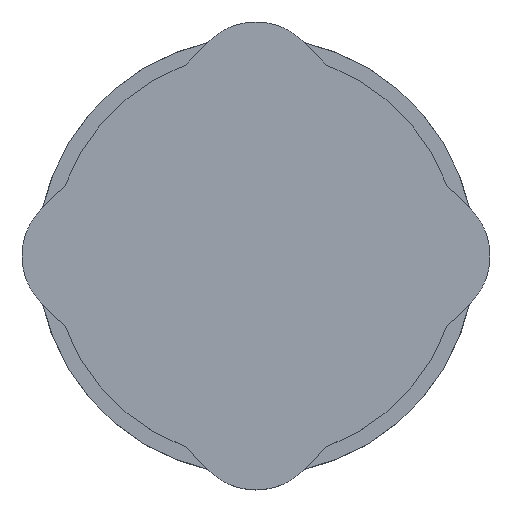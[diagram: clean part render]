
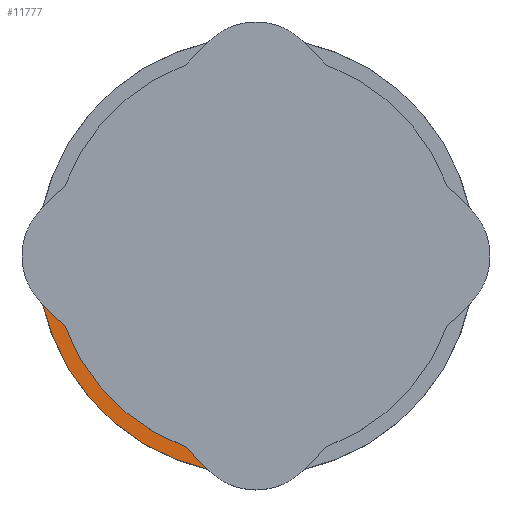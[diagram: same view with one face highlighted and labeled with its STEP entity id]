
A CAD part, top view. The second image highlights one B-rep face of the part: STEP entity #11777.
In plain terms, the highlighted planar face has unit normal (0, 0, 1).
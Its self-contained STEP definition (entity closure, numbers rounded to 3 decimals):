
#32 = CYLINDRICAL_SURFACE('',#33,28.8);
#33 = AXIS2_PLACEMENT_3D('',#34,#35,#36);
#34 = CARTESIAN_POINT('',(0.,0.,6.1));
#35 = DIRECTION('',(-0.,-0.,-1.));
#36 = DIRECTION('',(1.,0.,0.));
#329 = VERTEX_POINT('',#330);
#330 = CARTESIAN_POINT('',(-28.09,-6.355,15.3));
#343 = PLANE('',#344);
#344 = AXIS2_PLACEMENT_3D('',#345,#346,#347);
#345 = CARTESIAN_POINT('',(-6.223,-28.223,8.6));
#346 = DIRECTION('',(-0.707,-0.707,0.));
#347 = DIRECTION('',(-0.707,0.707,0.));
#354 = EDGE_CURVE('',#329,#355,#357,.T.);
#355 = VERTEX_POINT('',#356);
#356 = CARTESIAN_POINT('',(-6.355,-28.09,15.3));
#357 = SURFACE_CURVE('',#358,(#363,#370),.PCURVE_S1.);
#358 = CIRCLE('',#359,28.8);
#359 = AXIS2_PLACEMENT_3D('',#360,#361,#362);
#360 = CARTESIAN_POINT('',(0.,0.,15.3));
#361 = DIRECTION('',(0.,0.,1.));
#362 = DIRECTION('',(1.,0.,0.));
#363 = PCURVE('',#32,#364);
#364 = DEFINITIONAL_REPRESENTATION('',(#365),#369);
#365 = LINE('',#366,#367);
#366 = CARTESIAN_POINT('',(-0.,-9.2));
#367 = VECTOR('',#368,1.);
#368 = DIRECTION('',(-1.,0.));
#369 = ( GEOMETRIC_REPRESENTATION_CONTEXT(2) 
PARAMETRIC_REPRESENTATION_CONTEXT() REPRESENTATION_CONTEXT('2D SPACE',''
  ) );
#370 = PCURVE('',#371,#376);
#371 = PLANE('',#372);
#372 = AXIS2_PLACEMENT_3D('',#373,#374,#375);
#373 = CARTESIAN_POINT('',(0.,0.,15.3)
  );
#374 = DIRECTION('',(0.,0.,1.));
#375 = DIRECTION('',(1.,0.,-0.));
#376 = DEFINITIONAL_REPRESENTATION('',(#377),#381);
#377 = CIRCLE('',#378,28.8);
#378 = AXIS2_PLACEMENT_2D('',#379,#380);
#379 = CARTESIAN_POINT('',(0.,0.));
#380 = DIRECTION('',(1.,0.));
#381 = ( GEOMETRIC_REPRESENTATION_CONTEXT(2) 
PARAMETRIC_REPRESENTATION_CONTEXT() REPRESENTATION_CONTEXT('2D SPACE',''
  ) );
#398 = PLANE('',#399);
#399 = AXIS2_PLACEMENT_3D('',#400,#401,#402);
#400 = CARTESIAN_POINT('',(-6.223,-28.223,8.6));
#401 = DIRECTION('',(-0.707,-0.707,0.));
#402 = DIRECTION('',(-0.707,0.707,0.));
#2093 = CYLINDRICAL_SURFACE('',#2094,26.8);
#2094 = AXIS2_PLACEMENT_3D('',#2095,#2096,#2097);
#2095 = CARTESIAN_POINT('',(0.,0.,15.3));
#2096 = DIRECTION('',(-0.,-0.,-1.));
#2097 = DIRECTION('',(1.,0.,0.));
#9654 = VERTEX_POINT('',#9655);
#9655 = CARTESIAN_POINT('',(-9.317,-25.128,15.3));
#9674 = EDGE_CURVE('',#9675,#9654,#9677,.T.);
#9675 = VERTEX_POINT('',#9676);
#9676 = CARTESIAN_POINT('',(-25.128,-9.317,15.3));
#9677 = SURFACE_CURVE('',#9678,(#9683,#9690),.PCURVE_S1.);
#9678 = CIRCLE('',#9679,26.8);
#9679 = AXIS2_PLACEMENT_3D('',#9680,#9681,#9682);
#9680 = CARTESIAN_POINT('',(0.,0.,15.3));
#9681 = DIRECTION('',(0.,0.,1.));
#9682 = DIRECTION('',(1.,0.,0.));
#9683 = PCURVE('',#2093,#9684);
#9684 = DEFINITIONAL_REPRESENTATION('',(#9685),#9689);
#9685 = LINE('',#9686,#9687);
#9686 = CARTESIAN_POINT('',(-0.,0.));
#9687 = VECTOR('',#9688,1.);
#9688 = DIRECTION('',(-1.,0.));
#9689 = ( GEOMETRIC_REPRESENTATION_CONTEXT(2) 
PARAMETRIC_REPRESENTATION_CONTEXT() REPRESENTATION_CONTEXT('2D SPACE',''
  ) );
#9690 = PCURVE('',#371,#9691);
#9691 = DEFINITIONAL_REPRESENTATION('',(#9692),#9696);
#9692 = CIRCLE('',#9693,26.8);
#9693 = AXIS2_PLACEMENT_2D('',#9694,#9695);
#9694 = CARTESIAN_POINT('',(0.,0.));
#9695 = DIRECTION('',(1.,0.));
#9696 = ( GEOMETRIC_REPRESENTATION_CONTEXT(2) 
PARAMETRIC_REPRESENTATION_CONTEXT() REPRESENTATION_CONTEXT('2D SPACE',''
  ) );
#11759 = EDGE_CURVE('',#329,#9675,#11760,.T.);
#11760 = SURFACE_CURVE('',#11761,(#11765,#11771),.PCURVE_S1.);
#11761 = LINE('',#11762,#11763);
#11762 = CARTESIAN_POINT('',(-11.723,-22.723,15.3));
#11763 = VECTOR('',#11764,1.);
#11764 = DIRECTION('',(0.707,-0.707,0.));
#11765 = PCURVE('',#343,#11766);
#11766 = DEFINITIONAL_REPRESENTATION('',(#11767),#11770);
#11767 = B_SPLINE_CURVE_WITH_KNOTS('',1,(#11768,#11769),.UNSPECIFIED.,
  .F.,.F.,(2,2),(-23.335,7.778),
  .PIECEWISE_BEZIER_KNOTS.);
#11768 = CARTESIAN_POINT('',(31.113,-6.7));
#11769 = CARTESIAN_POINT('',(0.,-6.7));
#11770 = ( GEOMETRIC_REPRESENTATION_CONTEXT(2) 
PARAMETRIC_REPRESENTATION_CONTEXT() REPRESENTATION_CONTEXT('2D SPACE',''
  ) );
#11771 = PCURVE('',#371,#11772);
#11772 = DEFINITIONAL_REPRESENTATION('',(#11773),#11776);
#11773 = B_SPLINE_CURVE_WITH_KNOTS('',1,(#11774,#11775),.UNSPECIFIED.,
  .F.,.F.,(2,2),(-23.335,7.778),
  .PIECEWISE_BEZIER_KNOTS.);
#11774 = CARTESIAN_POINT('',(-28.223,-6.223));
#11775 = CARTESIAN_POINT('',(-6.223,-28.223));
#11776 = ( GEOMETRIC_REPRESENTATION_CONTEXT(2) 
PARAMETRIC_REPRESENTATION_CONTEXT() REPRESENTATION_CONTEXT('2D SPACE',''
  ) );
#11777 = ADVANCED_FACE('',(#11778),#371,.T.);
#11778 = FACE_BOUND('',#11779,.T.);
#11779 = EDGE_LOOP('',(#11780,#11781,#11800,#11801));
#11780 = ORIENTED_EDGE('',*,*,#354,.T.);
#11781 = ORIENTED_EDGE('',*,*,#11782,.F.);
#11782 = EDGE_CURVE('',#9654,#355,#11783,.T.);
#11783 = SURFACE_CURVE('',#11784,(#11788,#11794),.PCURVE_S1.);
#11784 = LINE('',#11785,#11786);
#11785 = CARTESIAN_POINT('',(-11.723,-22.723,15.3));
#11786 = VECTOR('',#11787,1.);
#11787 = DIRECTION('',(0.707,-0.707,0.));
#11788 = PCURVE('',#371,#11789);
#11789 = DEFINITIONAL_REPRESENTATION('',(#11790),#11793);
#11790 = B_SPLINE_CURVE_WITH_KNOTS('',1,(#11791,#11792),.UNSPECIFIED.,
  .F.,.F.,(2,2),(-23.335,7.778),
  .PIECEWISE_BEZIER_KNOTS.);
#11791 = CARTESIAN_POINT('',(-28.223,-6.223));
#11792 = CARTESIAN_POINT('',(-6.223,-28.223));
#11793 = ( GEOMETRIC_REPRESENTATION_CONTEXT(2) 
PARAMETRIC_REPRESENTATION_CONTEXT() REPRESENTATION_CONTEXT('2D SPACE',''
  ) );
#11794 = PCURVE('',#398,#11795);
#11795 = DEFINITIONAL_REPRESENTATION('',(#11796),#11799);
#11796 = B_SPLINE_CURVE_WITH_KNOTS('',1,(#11797,#11798),.UNSPECIFIED.,
  .F.,.F.,(2,2),(-23.335,7.778),
  .PIECEWISE_BEZIER_KNOTS.);
#11797 = CARTESIAN_POINT('',(31.113,-6.7));
#11798 = CARTESIAN_POINT('',(0.,-6.7));
#11799 = ( GEOMETRIC_REPRESENTATION_CONTEXT(2) 
PARAMETRIC_REPRESENTATION_CONTEXT() REPRESENTATION_CONTEXT('2D SPACE',''
  ) );
#11800 = ORIENTED_EDGE('',*,*,#9674,.F.);
#11801 = ORIENTED_EDGE('',*,*,#11759,.F.);
